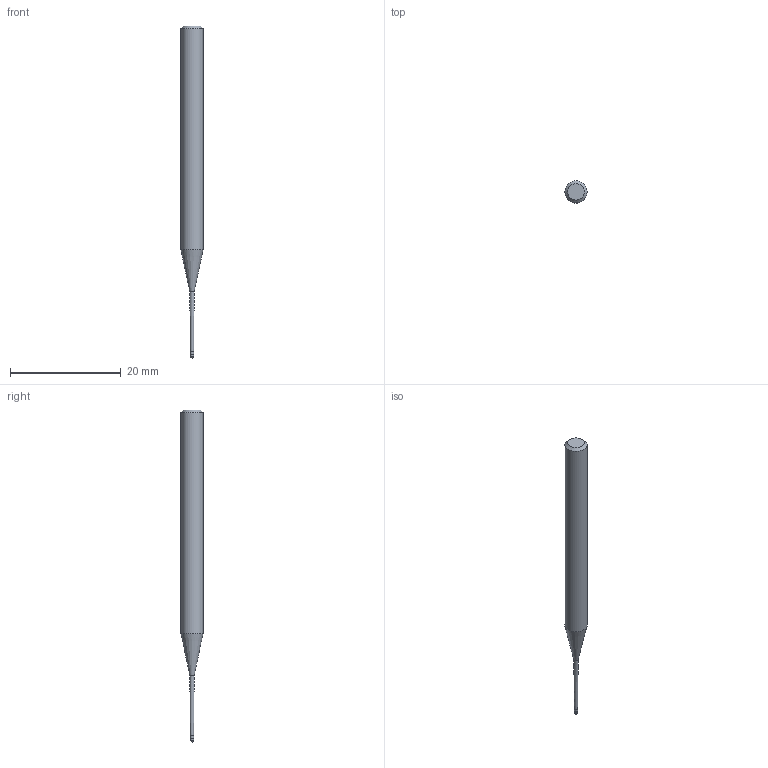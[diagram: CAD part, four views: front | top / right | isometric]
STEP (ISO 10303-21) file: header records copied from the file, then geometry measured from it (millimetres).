
FILE_DESCRIPTION((''),'2;1');
FILE_NAME('C:\Users\nsx150\AppData\Local\Temp\Mastercam 2021\SNAKH10GOD\TEMP.step','2021-10-21T13:31:25',(''),(''),'STEP Write','Mastercam 2021 ... CNC Software, Inc.','');
FILE_SCHEMA(('AUTOMOTIVE_DESIGN'));
Length unit declared in the file: millimetre
Products named in the file (1): None
Bounding box: 4 x 4 x 60 mm (x, y, z)
Volume: 550.3 mm3; surface area: 601.1 mm2
Topology: 2 solids, 2 shells, 10 faces, 16 edges, 9 vertices
Faces by surface type: plane 3, cylinder 3, cone 3, sphere 1
Full cylindrical faces by diameter (mm): 0.585 x1, 0.6 x1, 4 x1
Entity records: 232 total; most frequent: DIRECTION 40, CARTESIAN_POINT 28, AXIS2_PLACEMENT_3D 20, ORIENTED_EDGE 16, EDGE_LOOP 16, STYLED_ITEM 13, ADVANCED_FACE 10, FACE_BOUND 9
